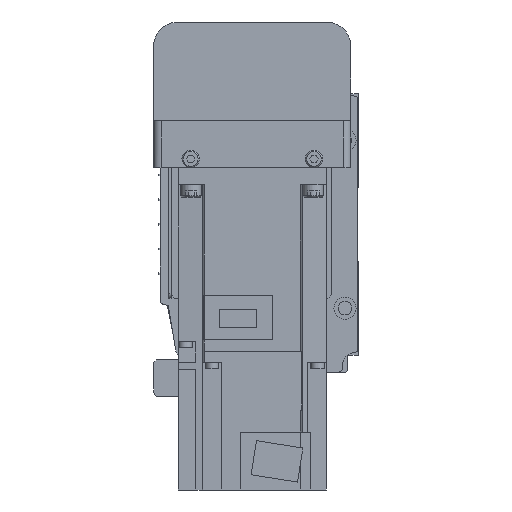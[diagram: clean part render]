
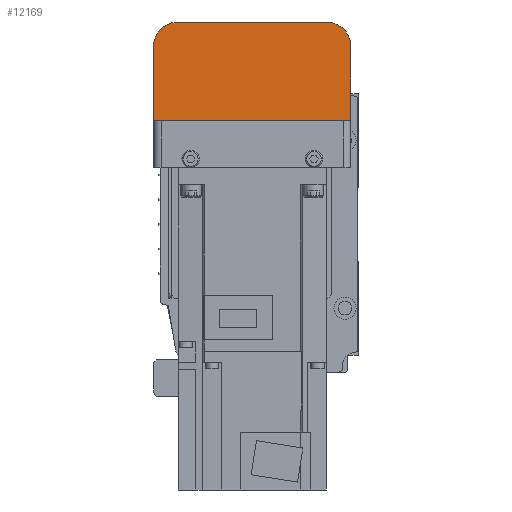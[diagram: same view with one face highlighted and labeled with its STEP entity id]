
A CAD part, left-side view. The second image highlights one B-rep face of the part: STEP entity #12169.
In plain terms, the highlighted planar face has unit normal (-1, 0, 0).
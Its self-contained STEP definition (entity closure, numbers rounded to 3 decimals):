
#459=CIRCLE('',#13093,10.);
#460=CIRCLE('',#13094,10.);
#2092=ORIENTED_EDGE('',*,*,#4935,.F.);
#2093=ORIENTED_EDGE('',*,*,#4936,.F.);
#2094=ORIENTED_EDGE('',*,*,#4937,.F.);
#2095=ORIENTED_EDGE('',*,*,#4938,.F.);
#2096=ORIENTED_EDGE('',*,*,#4939,.F.);
#2097=ORIENTED_EDGE('',*,*,#4940,.F.);
#4935=EDGE_CURVE('',#6463,#6459,#7703,.T.);
#4936=EDGE_CURVE('',#6475,#6463,#7704,.T.);
#4937=EDGE_CURVE('',#6476,#6475,#459,.T.);
#4938=EDGE_CURVE('',#6477,#6476,#7705,.T.);
#4939=EDGE_CURVE('',#6478,#6477,#460,.T.);
#4940=EDGE_CURVE('',#6459,#6478,#7706,.T.);
#6459=VERTEX_POINT('',#18961);
#6463=VERTEX_POINT('',#18971);
#6475=VERTEX_POINT('',#19000);
#6476=VERTEX_POINT('',#19002);
#6477=VERTEX_POINT('',#19004);
#6478=VERTEX_POINT('',#19006);
#7703=LINE('',#18998,#8931);
#7704=LINE('',#18999,#8932);
#7705=LINE('',#19003,#8933);
#7706=LINE('',#19007,#8934);
#8931=VECTOR('',#15274,1000.);
#8932=VECTOR('',#15275,1000.);
#8933=VECTOR('',#15278,1000.);
#8934=VECTOR('',#15281,1000.);
#9986=EDGE_LOOP('',(#2092,#2093,#2094,#2095,#2096,#2097));
#10880=FACE_BOUND('',#9986,.T.);
#11617=PLANE('',#13092);
#12169=ADVANCED_FACE('',(#10880),#11617,.F.);
#13092=AXIS2_PLACEMENT_3D('',#18997,#15272,#15273);
#13093=AXIS2_PLACEMENT_3D('',#19001,#15276,#15277);
#13094=AXIS2_PLACEMENT_3D('',#19005,#15279,#15280);
#15272=DIRECTION('',(1.,0.,0.));
#15273=DIRECTION('',(0.,0.,-1.));
#15274=DIRECTION('',(0.,-1.,0.));
#15275=DIRECTION('',(0.,0.,1.));
#15276=DIRECTION('',(1.,0.,0.));
#15277=DIRECTION('',(0.,0.,-1.));
#15278=DIRECTION('',(0.,1.,0.));
#15279=DIRECTION('',(1.,0.,0.));
#15280=DIRECTION('',(0.,0.,-1.));
#15281=DIRECTION('',(0.,0.,-1.));
#18961=CARTESIAN_POINT('',(-192.,-40.,-12.1));
#18971=CARTESIAN_POINT('',(-192.,40.,-12.1));
#18997=CARTESIAN_POINT('',(-192.,37.,7.));
#18998=CARTESIAN_POINT('',(-192.,50.,-12.1));
#18999=CARTESIAN_POINT('',(-192.,40.,-42.));
#19000=CARTESIAN_POINT('',(-192.,40.,-42.));
#19001=CARTESIAN_POINT('',(-192.,30.,-42.));
#19002=CARTESIAN_POINT('',(-192.,30.,-52.));
#19003=CARTESIAN_POINT('',(-192.,-30.,-52.));
#19004=CARTESIAN_POINT('',(-192.,-30.,-52.));
#19005=CARTESIAN_POINT('',(-192.,-30.,-42.));
#19006=CARTESIAN_POINT('',(-192.,-40.,-42.));
#19007=CARTESIAN_POINT('',(-192.,-40.,-12.1));
